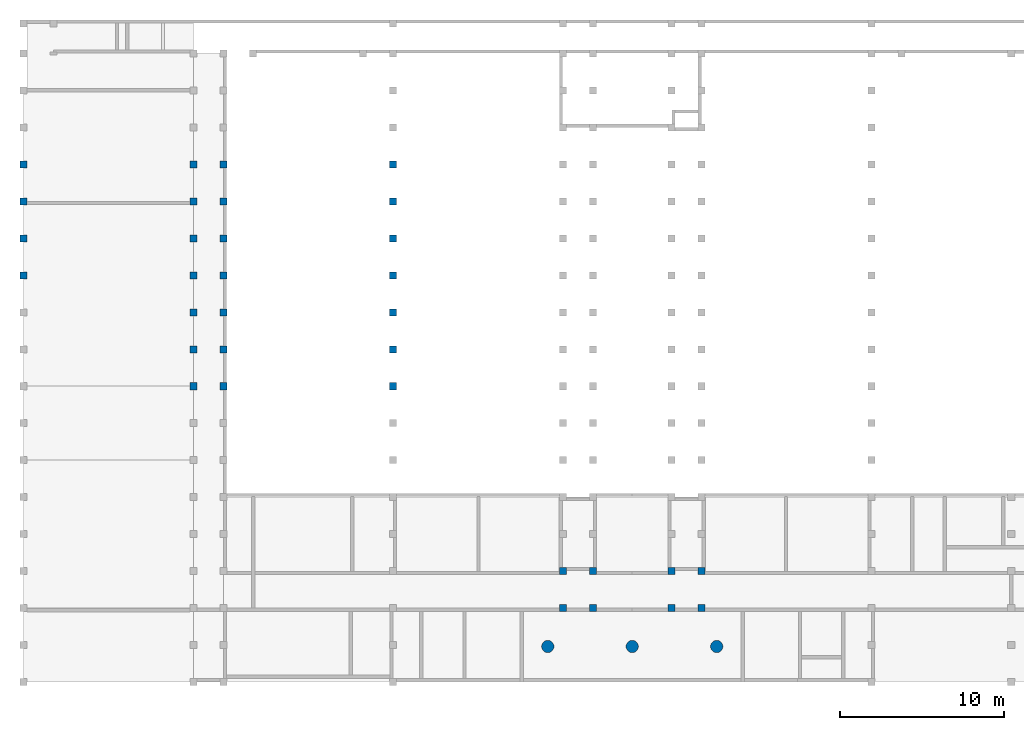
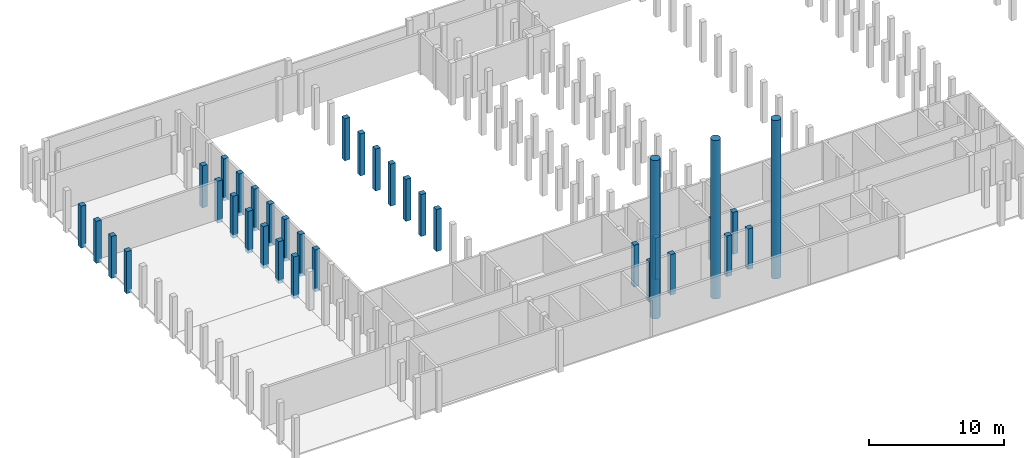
# One storey, part 2 of 9: 36 columns.
"""IFC2X3 building model written with IfcOpenShell, lengths in millimetres."""

from ifc_helpers import new_model, entity, si_unit, converted_unit, derived_unit, direction, frame, frame_2d, origin, origin_2d_with_axis, place, context, subcontext, project, spatial, rectangle, circle, extrude, source, transform, mapped, material, type_object, type_shapes, element, save


model = new_model("IFC2X3")

# Units and contexts
model_context = context("Model", 3, precision=0.01, world=origin(), true_north=direction((6.12303176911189e-17, 1.0)))
body_context = subcontext(model_context, "Body", "Model", "MODEL_VIEW")
ifc_project = project(units=[si_unit("LENGTHUNIT", "METRE", prefix="MILLI"), si_unit("AREAUNIT", "SQUARE_METRE"), si_unit("VOLUMEUNIT", "CUBIC_METRE"), converted_unit("PLANEANGLEUNIT", "DEGREE", entity("IfcRatioMeasure", 0.0174532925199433), si_unit("PLANEANGLEUNIT", "RADIAN"), dimensions=[0, 0, 0, 0, 0, 0, 0]), si_unit("MASSUNIT", "GRAM", prefix="KILO"), derived_unit("MASSDENSITYUNIT", [(si_unit("MASSUNIT", "GRAM", prefix="KILO"), 1), (si_unit("LENGTHUNIT", "METRE"), -3)]), derived_unit("MOMENTOFINERTIAUNIT", [(si_unit("LENGTHUNIT", "METRE"), 4)]), si_unit("TIMEUNIT", "SECOND"), si_unit("FREQUENCYUNIT", "HERTZ"), si_unit("THERMODYNAMICTEMPERATUREUNIT", "DEGREE_CELSIUS"), derived_unit("THERMALTRANSMITTANCEUNIT", [(si_unit("MASSUNIT", "GRAM", prefix="KILO"), 1), (si_unit("THERMODYNAMICTEMPERATUREUNIT", "KELVIN"), -1), (si_unit("TIMEUNIT", "SECOND"), -3)]), derived_unit("VOLUMETRICFLOWRATEUNIT", [(si_unit("LENGTHUNIT", "METRE"), 3), (si_unit("TIMEUNIT", "SECOND"), -1)]), si_unit("ELECTRICCURRENTUNIT", "AMPERE"), si_unit("ELECTRICVOLTAGEUNIT", "VOLT"), si_unit("POWERUNIT", "WATT"), si_unit("FORCEUNIT", "NEWTON", prefix="KILO"), si_unit("ILLUMINANCEUNIT", "LUX"), si_unit("LUMINOUSFLUXUNIT", "LUMEN"), si_unit("LUMINOUSINTENSITYUNIT", "CANDELA"), derived_unit("USERDEFINED", [(si_unit("MASSUNIT", "GRAM", prefix="KILO"), -1), (si_unit("LENGTHUNIT", "METRE"), -2), (si_unit("TIMEUNIT", "SECOND"), 3), (si_unit("LUMINOUSFLUXUNIT", "LUMEN"), 1)]), derived_unit("LINEARVELOCITYUNIT", [(si_unit("LENGTHUNIT", "METRE"), 1), (si_unit("TIMEUNIT", "SECOND"), -1)]), si_unit("PRESSUREUNIT", "PASCAL"), derived_unit("USERDEFINED", [(si_unit("LENGTHUNIT", "METRE"), -2), (si_unit("MASSUNIT", "GRAM", prefix="KILO"), 1), (si_unit("TIMEUNIT", "SECOND"), -2)]), derived_unit("LINEARFORCEUNIT", [(si_unit("MASSUNIT", "GRAM", prefix="KILO"), 1), (si_unit("LENGTHUNIT", "METRE"), 1), (si_unit("TIMEUNIT", "SECOND"), -2), (si_unit("LENGTHUNIT", "METRE"), -1)]), derived_unit("PLANARFORCEUNIT", [(si_unit("MASSUNIT", "GRAM", prefix="KILO"), 1), (si_unit("LENGTHUNIT", "METRE"), 1), (si_unit("TIMEUNIT", "SECOND"), -2), (si_unit("LENGTHUNIT", "METRE"), -2)])], contexts=[model_context])

# Site, building, storey
site_placement = place(None, frame((10627.5135316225, 21939.0796949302, 0.0)))
site = spatial("IfcSite", under=ifc_project, at=site_placement, Name="Default", CompositionType="ELEMENT")
building_placement = place(site_placement, origin())
building = spatial("IfcBuilding", under=site, at=building_placement, CompositionType="ELEMENT")
storey_placement = place(building_placement, frame((0.0, 0.0, -3500.0)))
storey = spatial("IfcBuildingStorey", under=building, at=storey_placement, Name="R-1", CompositionType="ELEMENT", Elevation=-3500.0)

# Columns
ifc_material = material(Name="Concrete, Precast Smooth, Light Grey")
column_type_1 = type_object("IfcColumnType", Name="M_Precast-Square Column:430x430", PredefinedType="COLUMN", material=ifc_material)
shared_shape_1 = source(origin(), body_context, "Body", "SweptSolid", [
    extrude(rectangle(XDim=430.0, YDim=430.0, at=origin_2d_with_axis()), frame((-247.513531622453, 9700.92030506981, -3800.0), z_axis=(0.0, 0.0, 1.0), x_axis=(0.0, -1.0, 0.0)), (0.0, 0.0, 1.0), 3800.0),
])
type_shapes(column_type_1, [shared_shape_1])
column_1_placement = place(storey_placement, frame((0.0, 0.0, 3500.0)))
element("IfcColumn", 1, at=column_1_placement, inside=storey, type_object=column_type_1, material=ifc_material, Name="M_Precast-Square Column:430x430", ObjectType="M_Precast-Square Column:430x430", context=body_context, shape_type="MappedRepresentation", body=[
    mapped(shared_shape_1, transform((0.0, 0.0, 0.0), scale=1.0)),
])
column_type_2 = type_object("IfcColumnType", Name="M_Precast-Square Column:430x430", PredefinedType="COLUMN", material=ifc_material)
shared_shape_2 = source(origin(), body_context, "Body", "SweptSolid", [
    extrude(rectangle(XDim=430.0, YDim=429.999999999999, at=frame_2d((0.0, 2.8421709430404e-13), x_axis=(1.0, 0.0))), frame((1582.48646837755, 9700.9203050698, -3800.0), z_axis=(0.0, 0.0, 1.0), x_axis=(0.0, -1.0, 0.0)), (0.0, 0.0, 1.0), 3800.0),
])
type_shapes(column_type_2, [shared_shape_2])
column_2_placement = place(storey_placement, frame((0.0, 0.0, 3500.0)))
element("IfcColumn", 2, at=column_2_placement, inside=storey, type_object=column_type_2, material=ifc_material, Name="M_Precast-Square Column:430x430", ObjectType="M_Precast-Square Column:430x430", context=body_context, shape_type="MappedRepresentation", body=[
    mapped(shared_shape_2, transform((0.0, 0.0, 0.0), scale=1.0)),
])
column_type_3 = type_object("IfcColumnType", Name="M_Precast-Square Column:430x430", PredefinedType="COLUMN", material=ifc_material)
shared_shape_3 = source(origin(), body_context, "Body", "SweptSolid", [
    extrude(rectangle(XDim=430.0, YDim=430.000000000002, at=frame_2d((-5.40012479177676e-13, -1.08002495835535e-12), x_axis=(1.0, 0.0))), frame((-10627.5135316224, 9700.92030506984, -3800.0), z_axis=(0.0, 0.0, 1.0), x_axis=(0.0, -1.0, 0.0)), (0.0, 0.0, 1.0), 3800.0),
])
type_shapes(column_type_3, [shared_shape_3])
column_3_placement = place(storey_placement, frame((0.0, 0.0, 3500.0)))
element("IfcColumn", 3, at=column_3_placement, inside=storey, type_object=column_type_3, material=ifc_material, Name="M_Precast-Square Column:430x430", ObjectType="M_Precast-Square Column:430x430", context=body_context, shape_type="MappedRepresentation", body=[
    mapped(shared_shape_3, transform((0.0, 0.0, 0.0), scale=1.0)),
])
column_type_4 = type_object("IfcColumnType", Name="M_Precast-Square Column:430x430", PredefinedType="COLUMN", material=ifc_material)
shared_shape_4 = source(origin(), body_context, "Body", "SweptSolid", [
    extrude(rectangle(XDim=430.0, YDim=430.000000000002, at=frame_2d((-5.40012479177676e-13, -1.08002495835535e-12), x_axis=(1.0, 0.0))), frame((11962.4864683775, 9700.92030506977, -3800.0), z_axis=(0.0, 0.0, 1.0), x_axis=(0.0, -1.0, 0.0)), (0.0, 0.0, 1.0), 3800.0),
])
type_shapes(column_type_4, [shared_shape_4])
column_4_placement = place(storey_placement, frame((0.0, 0.0, 3500.0)))
element("IfcColumn", 4, at=column_4_placement, inside=storey, type_object=column_type_4, material=ifc_material, Name="M_Precast-Square Column:430x430", ObjectType="M_Precast-Square Column:430x430", context=body_context, shape_type="MappedRepresentation", body=[
    mapped(shared_shape_4, transform((0.0, 0.0, 0.0), scale=1.0)),
])
column_type_5 = type_object("IfcColumnType", Name="M_Precast-Square Column:430x430", PredefinedType="COLUMN", material=ifc_material)
shared_shape_5 = source(origin(), body_context, "Body", "SweptSolid", [
    extrude(rectangle(XDim=430.0, YDim=430.0, at=origin_2d_with_axis()), frame((-247.513531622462, 7440.92030506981, -3800.0), z_axis=(0.0, 0.0, 1.0), x_axis=(0.0, -1.0, 0.0)), (0.0, 0.0, 1.0), 3800.0),
])
type_shapes(column_type_5, [shared_shape_5])
column_5_placement = place(storey_placement, frame((0.0, 0.0, 3500.0)))
element("IfcColumn", 5, at=column_5_placement, inside=storey, type_object=column_type_5, material=ifc_material, Name="M_Precast-Square Column:430x430", ObjectType="M_Precast-Square Column:430x430", context=body_context, shape_type="MappedRepresentation", body=[
    mapped(shared_shape_5, transform((0.0, 0.0, 0.0), scale=1.0)),
])
column_type_6 = type_object("IfcColumnType", Name="M_Precast-Square Column:430x430", PredefinedType="COLUMN", material=ifc_material)
shared_shape_6 = source(origin(), body_context, "Body", "SweptSolid", [
    extrude(rectangle(XDim=430.0, YDim=429.999999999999, at=frame_2d((0.0, 2.8421709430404e-13), x_axis=(1.0, 0.0))), frame((1582.48646837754, 7440.9203050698, -3800.0), z_axis=(0.0, 0.0, 1.0), x_axis=(0.0, -1.0, 0.0)), (0.0, 0.0, 1.0), 3800.0),
])
type_shapes(column_type_6, [shared_shape_6])
column_6_placement = place(storey_placement, frame((0.0, 0.0, 3500.0)))
element("IfcColumn", 6, at=column_6_placement, inside=storey, type_object=column_type_6, material=ifc_material, Name="M_Precast-Square Column:430x430", ObjectType="M_Precast-Square Column:430x430", context=body_context, shape_type="MappedRepresentation", body=[
    mapped(shared_shape_6, transform((0.0, 0.0, 0.0), scale=1.0)),
])
column_type_7 = type_object("IfcColumnType", Name="M_Precast-Square Column:430x430", PredefinedType="COLUMN", material=ifc_material)
shared_shape_7 = source(origin(), body_context, "Body", "SweptSolid", [
    extrude(rectangle(XDim=430.0, YDim=430.000000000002, at=frame_2d((0.0, -1.08002495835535e-12), x_axis=(1.0, 0.0))), frame((-10627.5135316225, 7440.92030506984, -3800.0), z_axis=(0.0, 0.0, 1.0), x_axis=(0.0, -1.0, 0.0)), (0.0, 0.0, 1.0), 3800.0),
])
type_shapes(column_type_7, [shared_shape_7])
column_7_placement = place(storey_placement, frame((0.0, 0.0, 3500.0)))
element("IfcColumn", 7, at=column_7_placement, inside=storey, type_object=column_type_7, material=ifc_material, Name="M_Precast-Square Column:430x430", ObjectType="M_Precast-Square Column:430x430", context=body_context, shape_type="MappedRepresentation", body=[
    mapped(shared_shape_7, transform((0.0, 0.0, 0.0), scale=1.0)),
])
column_type_8 = type_object("IfcColumnType", Name="M_Precast-Square Column:430x430", PredefinedType="COLUMN", material=ifc_material)
shared_shape_8 = source(origin(), body_context, "Body", "SweptSolid", [
    extrude(rectangle(XDim=430.0, YDim=430.000000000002, at=frame_2d((0.0, -1.08002495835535e-12), x_axis=(1.0, 0.0))), frame((11962.4864683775, 7440.92030506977, -3800.0), z_axis=(0.0, 0.0, 1.0), x_axis=(0.0, -1.0, 0.0)), (0.0, 0.0, 1.0), 3800.0),
])
type_shapes(column_type_8, [shared_shape_8])
column_8_placement = place(storey_placement, frame((0.0, 0.0, 3500.0)))
element("IfcColumn", 8, at=column_8_placement, inside=storey, type_object=column_type_8, material=ifc_material, Name="M_Precast-Square Column:430x430", ObjectType="M_Precast-Square Column:430x430", context=body_context, shape_type="MappedRepresentation", body=[
    mapped(shared_shape_8, transform((0.0, 0.0, 0.0), scale=1.0)),
])
column_type_9 = type_object("IfcColumnType", Name="M_Precast-Square Column:430x430", PredefinedType="COLUMN", material=ifc_material)
shared_shape_9 = source(origin(), body_context, "Body", "SweptSolid", [
    extrude(rectangle(XDim=430.0, YDim=430.0, at=origin_2d_with_axis()), frame((-247.513531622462, 5180.92030506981, -3800.0), z_axis=(0.0, 0.0, 1.0), x_axis=(0.0, -1.0, 0.0)), (0.0, 0.0, 1.0), 3800.0),
])
type_shapes(column_type_9, [shared_shape_9])
column_9_placement = place(storey_placement, frame((0.0, 0.0, 3500.0)))
element("IfcColumn", 9, at=column_9_placement, inside=storey, type_object=column_type_9, material=ifc_material, Name="M_Precast-Square Column:430x430", ObjectType="M_Precast-Square Column:430x430", context=body_context, shape_type="MappedRepresentation", body=[
    mapped(shared_shape_9, transform((0.0, 0.0, 0.0), scale=1.0)),
])
column_type_10 = type_object("IfcColumnType", Name="M_Precast-Square Column:430x430", PredefinedType="COLUMN", material=ifc_material)
shared_shape_10 = source(origin(), body_context, "Body", "SweptSolid", [
    extrude(rectangle(XDim=430.0, YDim=429.999999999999, at=frame_2d((0.0, 2.8421709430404e-13), x_axis=(1.0, 0.0))), frame((1582.48646837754, 5180.9203050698, -3800.0), z_axis=(0.0, 0.0, 1.0), x_axis=(0.0, -1.0, 0.0)), (0.0, 0.0, 1.0), 3800.0),
])
type_shapes(column_type_10, [shared_shape_10])
column_10_placement = place(storey_placement, frame((0.0, 0.0, 3500.0)))
element("IfcColumn", 10, at=column_10_placement, inside=storey, type_object=column_type_10, material=ifc_material, Name="M_Precast-Square Column:430x430", ObjectType="M_Precast-Square Column:430x430", context=body_context, shape_type="MappedRepresentation", body=[
    mapped(shared_shape_10, transform((0.0, 0.0, 0.0), scale=1.0)),
])
column_type_11 = type_object("IfcColumnType", Name="M_Precast-Square Column:430x430", PredefinedType="COLUMN", material=ifc_material)
shared_shape_11 = source(origin(), body_context, "Body", "SweptSolid", [
    extrude(rectangle(XDim=430.0, YDim=430.000000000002, at=frame_2d((0.0, -1.08002495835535e-12), x_axis=(1.0, 0.0))), frame((-10627.5135316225, 5180.92030506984, -3800.0), z_axis=(0.0, 0.0, 1.0), x_axis=(0.0, -1.0, 0.0)), (0.0, 0.0, 1.0), 3800.0),
])
type_shapes(column_type_11, [shared_shape_11])
column_11_placement = place(storey_placement, frame((0.0, 0.0, 3500.0)))
element("IfcColumn", 11, at=column_11_placement, inside=storey, type_object=column_type_11, material=ifc_material, Name="M_Precast-Square Column:430x430", ObjectType="M_Precast-Square Column:430x430", context=body_context, shape_type="MappedRepresentation", body=[
    mapped(shared_shape_11, transform((0.0, 0.0, 0.0), scale=1.0)),
])
column_type_12 = type_object("IfcColumnType", Name="M_Precast-Square Column:430x430", PredefinedType="COLUMN", material=ifc_material)
shared_shape_12 = source(origin(), body_context, "Body", "SweptSolid", [
    extrude(rectangle(XDim=430.0, YDim=430.000000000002, at=frame_2d((0.0, -1.08002495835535e-12), x_axis=(1.0, 0.0))), frame((11962.4864683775, 5180.92030506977, -3800.0), z_axis=(0.0, 0.0, 1.0), x_axis=(0.0, -1.0, 0.0)), (0.0, 0.0, 1.0), 3800.0),
])
type_shapes(column_type_12, [shared_shape_12])
column_12_placement = place(storey_placement, frame((0.0, 0.0, 3500.0)))
element("IfcColumn", 12, at=column_12_placement, inside=storey, type_object=column_type_12, material=ifc_material, Name="M_Precast-Square Column:430x430", ObjectType="M_Precast-Square Column:430x430", context=body_context, shape_type="MappedRepresentation", body=[
    mapped(shared_shape_12, transform((0.0, 0.0, 0.0), scale=1.0)),
])
column_type_13 = type_object("IfcColumnType", Name="M_Precast-Square Column:430x430", PredefinedType="COLUMN", material=ifc_material)
shared_shape_13 = source(origin(), body_context, "Body", "SweptSolid", [
    extrude(rectangle(XDim=430.0, YDim=430.0, at=origin_2d_with_axis()), frame((-247.51353162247, 2920.92030506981, -3800.0), z_axis=(0.0, 0.0, 1.0), x_axis=(0.0, -1.0, 0.0)), (0.0, 0.0, 1.0), 3800.0),
])
type_shapes(column_type_13, [shared_shape_13])
column_13_placement = place(storey_placement, frame((0.0, 0.0, 3500.0)))
element("IfcColumn", 13, at=column_13_placement, inside=storey, type_object=column_type_13, material=ifc_material, Name="M_Precast-Square Column:430x430", ObjectType="M_Precast-Square Column:430x430", context=body_context, shape_type="MappedRepresentation", body=[
    mapped(shared_shape_13, transform((0.0, 0.0, 0.0), scale=1.0)),
])
column_type_14 = type_object("IfcColumnType", Name="M_Precast-Square Column:430x430", PredefinedType="COLUMN", material=ifc_material)
shared_shape_14 = source(origin(), body_context, "Body", "SweptSolid", [
    extrude(rectangle(XDim=430.0, YDim=429.999999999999, at=frame_2d((0.0, 2.8421709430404e-13), x_axis=(1.0, 0.0))), frame((1582.48646837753, 2920.9203050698, -3800.0), z_axis=(0.0, 0.0, 1.0), x_axis=(0.0, -1.0, 0.0)), (0.0, 0.0, 1.0), 3800.0),
])
type_shapes(column_type_14, [shared_shape_14])
column_14_placement = place(storey_placement, frame((0.0, 0.0, 3500.0)))
element("IfcColumn", 14, at=column_14_placement, inside=storey, type_object=column_type_14, material=ifc_material, Name="M_Precast-Square Column:430x430", ObjectType="M_Precast-Square Column:430x430", context=body_context, shape_type="MappedRepresentation", body=[
    mapped(shared_shape_14, transform((0.0, 0.0, 0.0), scale=1.0)),
])
column_type_15 = type_object("IfcColumnType", Name="M_Precast-Square Column:430x430", PredefinedType="COLUMN", material=ifc_material)
shared_shape_15 = source(origin(), body_context, "Body", "SweptSolid", [
    extrude(rectangle(XDim=430.0, YDim=430.000000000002, at=frame_2d((0.0, -1.08002495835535e-12), x_axis=(1.0, 0.0))), frame((-10627.5135316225, 2920.92030506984, -3800.0), z_axis=(0.0, 0.0, 1.0), x_axis=(0.0, -1.0, 0.0)), (0.0, 0.0, 1.0), 3800.0),
])
type_shapes(column_type_15, [shared_shape_15])
column_15_placement = place(storey_placement, frame((0.0, 0.0, 3500.0)))
element("IfcColumn", 15, at=column_15_placement, inside=storey, type_object=column_type_15, material=ifc_material, Name="M_Precast-Square Column:430x430", ObjectType="M_Precast-Square Column:430x430", context=body_context, shape_type="MappedRepresentation", body=[
    mapped(shared_shape_15, transform((0.0, 0.0, 0.0), scale=1.0)),
])
column_type_16 = type_object("IfcColumnType", Name="M_Precast-Square Column:430x430", PredefinedType="COLUMN", material=ifc_material)
shared_shape_16 = source(origin(), body_context, "Body", "SweptSolid", [
    extrude(rectangle(XDim=430.0, YDim=430.000000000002, at=frame_2d((0.0, -1.08002495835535e-12), x_axis=(1.0, 0.0))), frame((11962.4864683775, 2920.92030506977, -3800.0), z_axis=(0.0, 0.0, 1.0), x_axis=(0.0, -1.0, 0.0)), (0.0, 0.0, 1.0), 3800.0),
])
type_shapes(column_type_16, [shared_shape_16])
column_16_placement = place(storey_placement, frame((0.0, 0.0, 3500.0)))
element("IfcColumn", 16, at=column_16_placement, inside=storey, type_object=column_type_16, material=ifc_material, Name="M_Precast-Square Column:430x430", ObjectType="M_Precast-Square Column:430x430", context=body_context, shape_type="MappedRepresentation", body=[
    mapped(shared_shape_16, transform((0.0, 0.0, 0.0), scale=1.0)),
])
column_type_17 = type_object("IfcColumnType", Name="M_Precast-Square Column:430x430", PredefinedType="COLUMN", material=ifc_material)
shared_shape_17 = source(origin(), body_context, "Body", "SweptSolid", [
    extrude(rectangle(XDim=430.0, YDim=430.0, at=frame_2d((-5.6843418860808e-14, 0.0), x_axis=(1.0, 0.0))), frame((-247.51353162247, 660.920305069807, -3800.0), z_axis=(0.0, 0.0, 1.0), x_axis=(0.0, -1.0, 0.0)), (0.0, 0.0, 1.0), 3800.0),
])
type_shapes(column_type_17, [shared_shape_17])
column_17_placement = place(storey_placement, frame((0.0, 0.0, 3500.0)))
element("IfcColumn", 17, at=column_17_placement, inside=storey, type_object=column_type_17, material=ifc_material, Name="M_Precast-Square Column:430x430", ObjectType="M_Precast-Square Column:430x430", context=body_context, shape_type="MappedRepresentation", body=[
    mapped(shared_shape_17, transform((0.0, 0.0, 0.0), scale=1.0)),
])
column_type_18 = type_object("IfcColumnType", Name="M_Precast-Square Column:430x430", PredefinedType="COLUMN", material=ifc_material)
shared_shape_18 = source(origin(), body_context, "Body", "SweptSolid", [
    extrude(rectangle(XDim=430.0, YDim=429.999999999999, at=frame_2d((-7.105427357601e-14, 2.8421709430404e-13), x_axis=(1.0, 0.0))), frame((1582.48646837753, 660.920305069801, -3800.0), z_axis=(0.0, 0.0, 1.0), x_axis=(0.0, -1.0, 0.0)), (0.0, 0.0, 1.0), 3800.0),
])
type_shapes(column_type_18, [shared_shape_18])
column_18_placement = place(storey_placement, frame((0.0, 0.0, 3500.0)))
element("IfcColumn", 18, at=column_18_placement, inside=storey, type_object=column_type_18, material=ifc_material, Name="M_Precast-Square Column:430x430", ObjectType="M_Precast-Square Column:430x430", context=body_context, shape_type="MappedRepresentation", body=[
    mapped(shared_shape_18, transform((0.0, 0.0, 0.0), scale=1.0)),
])
column_type_19 = type_object("IfcColumnType", Name="M_Precast-Square Column:430x430", PredefinedType="COLUMN", material=ifc_material)
shared_shape_19 = source(origin(), body_context, "Body", "SweptSolid", [
    extrude(rectangle(XDim=430.0, YDim=430.000000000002, at=frame_2d((-7.105427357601e-14, -1.08002495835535e-12), x_axis=(1.0, 0.0))), frame((11962.4864683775, 660.920305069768, -3800.0), z_axis=(0.0, 0.0, 1.0), x_axis=(0.0, -1.0, 0.0)), (0.0, 0.0, 1.0), 3800.0),
])
type_shapes(column_type_19, [shared_shape_19])
column_19_placement = place(storey_placement, frame((0.0, 0.0, 3500.0)))
element("IfcColumn", 19, at=column_19_placement, inside=storey, type_object=column_type_19, material=ifc_material, Name="M_Precast-Square Column:430x430", ObjectType="M_Precast-Square Column:430x430", context=body_context, shape_type="MappedRepresentation", body=[
    mapped(shared_shape_19, transform((0.0, 0.0, 0.0), scale=1.0)),
])
column_type_20 = type_object("IfcColumnType", Name="M_Precast-Square Column:430x430", PredefinedType="COLUMN", material=ifc_material)
shared_shape_20 = source(origin(), body_context, "Body", "SweptSolid", [
    extrude(rectangle(XDim=430.0, YDim=430.0, at=frame_2d((-2.70006239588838e-13, 0.0), x_axis=(1.0, 0.0))), frame((-247.513531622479, -1599.07969493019, -3800.0), z_axis=(0.0, 0.0, 1.0), x_axis=(0.0, -1.0, 0.0)), (0.0, 0.0, 1.0), 3800.0),
])
type_shapes(column_type_20, [shared_shape_20])
column_20_placement = place(storey_placement, frame((0.0, 0.0, 3500.0)))
element("IfcColumn", 20, at=column_20_placement, inside=storey, type_object=column_type_20, material=ifc_material, Name="M_Precast-Square Column:430x430", ObjectType="M_Precast-Square Column:430x430", context=body_context, shape_type="MappedRepresentation", body=[
    mapped(shared_shape_20, transform((0.0, 0.0, 0.0), scale=1.0)),
])
column_type_21 = type_object("IfcColumnType", Name="M_Precast-Square Column:430x430", PredefinedType="COLUMN", material=ifc_material)
shared_shape_21 = source(origin(), body_context, "Body", "SweptSolid", [
    extrude(rectangle(XDim=430.0, YDim=429.999999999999, at=frame_2d((-1.27897692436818e-13, 2.8421709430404e-13), x_axis=(1.0, 0.0))), frame((1582.48646837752, -1599.0796949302, -3800.0), z_axis=(0.0, 0.0, 1.0), x_axis=(0.0, -1.0, 0.0)), (0.0, 0.0, 1.0), 3800.0),
])
type_shapes(column_type_21, [shared_shape_21])
column_21_placement = place(storey_placement, frame((0.0, 0.0, 3500.0)))
element("IfcColumn", 21, at=column_21_placement, inside=storey, type_object=column_type_21, material=ifc_material, Name="M_Precast-Square Column:430x430", ObjectType="M_Precast-Square Column:430x430", context=body_context, shape_type="MappedRepresentation", body=[
    mapped(shared_shape_21, transform((0.0, 0.0, 0.0), scale=1.0)),
])
column_type_22 = type_object("IfcColumnType", Name="M_Precast-Square Column:430x430", PredefinedType="COLUMN", material=ifc_material)
shared_shape_22 = source(origin(), body_context, "Body", "SweptSolid", [
    extrude(rectangle(XDim=430.0, YDim=430.000000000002, at=frame_2d((0.0, -1.08002495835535e-12), x_axis=(1.0, 0.0))), frame((11962.4864683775, -1599.07969493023, -3800.0), z_axis=(0.0, 0.0, 1.0), x_axis=(0.0, -1.0, 0.0)), (0.0, 0.0, 1.0), 3800.0),
])
type_shapes(column_type_22, [shared_shape_22])
column_22_placement = place(storey_placement, frame((0.0, 0.0, 3500.0)))
element("IfcColumn", 22, at=column_22_placement, inside=storey, type_object=column_type_22, material=ifc_material, Name="M_Precast-Square Column:430x430", ObjectType="M_Precast-Square Column:430x430", context=body_context, shape_type="MappedRepresentation", body=[
    mapped(shared_shape_22, transform((0.0, 0.0, 0.0), scale=1.0)),
])
column_type_23 = type_object("IfcColumnType", Name="M_Precast-Square Column:430x430", PredefinedType="COLUMN", material=ifc_material)
shared_shape_23 = source(origin(), body_context, "Body", "SweptSolid", [
    extrude(rectangle(XDim=430.0, YDim=430.0, at=frame_2d((-5.40012479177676e-13, 0.0), x_axis=(1.0, 0.0))), frame((-247.513531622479, -3859.07969493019, -3800.0), z_axis=(0.0, 0.0, 1.0), x_axis=(0.0, -1.0, 0.0)), (0.0, 0.0, 1.0), 3800.0),
])
type_shapes(column_type_23, [shared_shape_23])
column_23_placement = place(storey_placement, frame((0.0, 0.0, 3500.0)))
element("IfcColumn", 23, at=column_23_placement, inside=storey, type_object=column_type_23, material=ifc_material, Name="M_Precast-Square Column:430x430", ObjectType="M_Precast-Square Column:430x430", context=body_context, shape_type="MappedRepresentation", body=[
    mapped(shared_shape_23, transform((0.0, 0.0, 0.0), scale=1.0)),
])
column_type_24 = type_object("IfcColumnType", Name="M_Precast-Square Column:430x430", PredefinedType="COLUMN", material=ifc_material)
shared_shape_24 = source(origin(), body_context, "Body", "SweptSolid", [
    extrude(rectangle(XDim=430.0, YDim=429.999999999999, at=frame_2d((0.0, 2.8421709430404e-13), x_axis=(1.0, 0.0))), frame((1582.48646837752, -3859.0796949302, -3800.0), z_axis=(0.0, 0.0, 1.0), x_axis=(0.0, -1.0, 0.0)), (0.0, 0.0, 1.0), 3800.0),
])
type_shapes(column_type_24, [shared_shape_24])
column_24_placement = place(storey_placement, frame((0.0, 0.0, 3500.0)))
element("IfcColumn", 24, at=column_24_placement, inside=storey, type_object=column_type_24, material=ifc_material, Name="M_Precast-Square Column:430x430", ObjectType="M_Precast-Square Column:430x430", context=body_context, shape_type="MappedRepresentation", body=[
    mapped(shared_shape_24, transform((0.0, 0.0, 0.0), scale=1.0)),
])
column_type_25 = type_object("IfcColumnType", Name="M_Precast-Square Column:430x430", PredefinedType="COLUMN", material=ifc_material)
shared_shape_25 = source(origin(), body_context, "Body", "SweptSolid", [
    extrude(rectangle(XDim=430.0, YDim=430.000000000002, at=frame_2d((0.0, -1.08002495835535e-12), x_axis=(1.0, 0.0))), frame((11962.4864683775, -3859.07969493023, -3800.0), z_axis=(0.0, 0.0, 1.0), x_axis=(0.0, -1.0, 0.0)), (0.0, 0.0, 1.0), 3800.0),
])
type_shapes(column_type_25, [shared_shape_25])
column_25_placement = place(storey_placement, frame((0.0, 0.0, 3500.0)))
element("IfcColumn", 25, at=column_25_placement, inside=storey, type_object=column_type_25, material=ifc_material, Name="M_Precast-Square Column:430x430", ObjectType="M_Precast-Square Column:430x430", context=body_context, shape_type="MappedRepresentation", body=[
    mapped(shared_shape_25, transform((0.0, 0.0, 0.0), scale=1.0)),
])
column_type_26 = type_object("IfcColumnType", Name="M_Precast-Square Column:430x430", PredefinedType="COLUMN", material=ifc_material)
shared_shape_26 = source(origin(), body_context, "Body", "SweptSolid", [
    extrude(rectangle(XDim=430.0, YDim=429.999999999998, at=frame_2d((2.1600499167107e-12, 0.0), x_axis=(1.0, 0.0))), frame((22342.4864683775, -15159.0796949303, -3800.0), z_axis=(0.0, 0.0, 1.0), x_axis=(0.0, -1.0, 0.0)), (0.0, 0.0, 1.0), 3800.0),
])
type_shapes(column_type_26, [shared_shape_26])
column_26_placement = place(storey_placement, frame((0.0, 0.0, 3500.0)))
element("IfcColumn", 26, at=column_26_placement, inside=storey, type_object=column_type_26, material=ifc_material, Name="M_Precast-Square Column:430x430", ObjectType="M_Precast-Square Column:430x430", context=body_context, shape_type="MappedRepresentation", body=[
    mapped(shared_shape_26, transform((0.0, 0.0, 0.0), scale=1.0)),
])
column_type_27 = type_object("IfcColumnType", Name="M_Precast-Square Column:430x430", PredefinedType="COLUMN", material=ifc_material)
shared_shape_27 = source(origin(), body_context, "Body", "SweptSolid", [
    extrude(rectangle(XDim=430.0, YDim=429.999999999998, at=origin_2d_with_axis()), frame((24172.4864683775, -15159.0796949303, -3800.0), z_axis=(0.0, 0.0, 1.0), x_axis=(0.0, -1.0, 0.0)), (0.0, 0.0, 1.0), 3800.0),
])
type_shapes(column_type_27, [shared_shape_27])
column_27_placement = place(storey_placement, frame((0.0, 0.0, 3500.0)))
element("IfcColumn", 27, at=column_27_placement, inside=storey, type_object=column_type_27, material=ifc_material, Name="M_Precast-Square Column:430x430", ObjectType="M_Precast-Square Column:430x430", context=body_context, shape_type="MappedRepresentation", body=[
    mapped(shared_shape_27, transform((0.0, 0.0, 0.0), scale=1.0)),
])
column_type_28 = type_object("IfcColumnType", Name="M_Precast-Square Column:430x430", PredefinedType="COLUMN", material=ifc_material)
shared_shape_28 = source(origin(), body_context, "Body", "SweptSolid", [
    extrude(rectangle(XDim=430.0, YDim=429.999999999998, at=frame_2d((2.1600499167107e-12, 0.0), x_axis=(1.0, 0.0))), frame((22342.4864683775, -17419.0796949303, -3800.0), z_axis=(0.0, 0.0, 1.0), x_axis=(0.0, -1.0, 0.0)), (0.0, 0.0, 1.0), 3670.0),
])
type_shapes(column_type_28, [shared_shape_28])
column_28_placement = place(storey_placement, frame((0.0, 0.0, 3500.0)))
element("IfcColumn", 28, at=column_28_placement, inside=storey, type_object=column_type_28, material=ifc_material, Name="M_Precast-Square Column:430x430", ObjectType="M_Precast-Square Column:430x430", context=body_context, shape_type="MappedRepresentation", body=[
    mapped(shared_shape_28, transform((0.0, 0.0, 0.0), scale=1.0)),
])
column_type_29 = type_object("IfcColumnType", Name="M_Precast-Square Column:430x430", PredefinedType="COLUMN", material=ifc_material)
shared_shape_29 = source(origin(), body_context, "Body", "SweptSolid", [
    extrude(rectangle(XDim=430.0, YDim=429.999999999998, at=origin_2d_with_axis()), frame((24172.4864683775, -17419.0796949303, -3800.0), z_axis=(0.0, 0.0, 1.0), x_axis=(0.0, -1.0, 0.0)), (0.0, 0.0, 1.0), 3670.0),
])
type_shapes(column_type_29, [shared_shape_29])
column_29_placement = place(storey_placement, frame((0.0, 0.0, 3500.0)))
element("IfcColumn", 29, at=column_29_placement, inside=storey, type_object=column_type_29, material=ifc_material, Name="M_Precast-Square Column:430x430", ObjectType="M_Precast-Square Column:430x430", context=body_context, shape_type="MappedRepresentation", body=[
    mapped(shared_shape_29, transform((0.0, 0.0, 0.0), scale=1.0)),
])
column_type_30 = type_object("IfcColumnType", Name="M_Precast-Square Column:430x430", PredefinedType="COLUMN", material=ifc_material)
shared_shape_30 = source(origin(), body_context, "Body", "SweptSolid", [
    extrude(rectangle(XDim=430.0, YDim=429.999999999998, at=frame_2d((1.08002495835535e-12, -4.33431068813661e-12), x_axis=(1.0, 0.0))), frame((30812.4864683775, -15159.0796949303, -3800.0), z_axis=(0.0, 0.0, 1.0), x_axis=(0.0, -1.0, 0.0)), (0.0, 0.0, 1.0), 3800.0),
])
type_shapes(column_type_30, [shared_shape_30])
column_30_placement = place(storey_placement, frame((0.0, 0.0, 3500.0)))
element("IfcColumn", 30, at=column_30_placement, inside=storey, type_object=column_type_30, material=ifc_material, Name="M_Precast-Square Column:430x430", ObjectType="M_Precast-Square Column:430x430", context=body_context, shape_type="MappedRepresentation", body=[
    mapped(shared_shape_30, transform((0.0, 0.0, 0.0), scale=1.0)),
])
column_type_31 = type_object("IfcColumnType", Name="M_Precast-Square Column:430x430", PredefinedType="COLUMN", material=ifc_material)
shared_shape_31 = source(origin(), body_context, "Body", "SweptSolid", [
    extrude(rectangle(XDim=430.0, YDim=429.999999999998, at=frame_2d((-1.08002495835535e-12, -4.33431068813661e-12), x_axis=(1.0, 0.0))), frame((28982.4864683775, -15159.0796949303, -3800.0), z_axis=(0.0, 0.0, 1.0), x_axis=(0.0, -1.0, 0.0)), (0.0, 0.0, 1.0), 3800.0),
])
type_shapes(column_type_31, [shared_shape_31])
column_31_placement = place(storey_placement, frame((0.0, 0.0, 3500.0)))
element("IfcColumn", 31, at=column_31_placement, inside=storey, type_object=column_type_31, material=ifc_material, Name="M_Precast-Square Column:430x430", ObjectType="M_Precast-Square Column:430x430", context=body_context, shape_type="MappedRepresentation", body=[
    mapped(shared_shape_31, transform((0.0, 0.0, 0.0), scale=1.0)),
])
column_type_32 = type_object("IfcColumnType", Name="M_Precast-Square Column:430x430", PredefinedType="COLUMN", material=ifc_material)
shared_shape_32 = source(origin(), body_context, "Body", "SweptSolid", [
    extrude(rectangle(XDim=430.0, YDim=429.999999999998, at=frame_2d((-1.08002495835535e-12, 0.0), x_axis=(1.0, 0.0))), frame((30812.4864683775, -17419.0796949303, -3800.0), z_axis=(0.0, 0.0, 1.0), x_axis=(0.0, -1.0, 0.0)), (0.0, 0.0, 1.0), 3670.0),
])
type_shapes(column_type_32, [shared_shape_32])
column_32_placement = place(storey_placement, frame((0.0, 0.0, 3500.0)))
element("IfcColumn", 32, at=column_32_placement, inside=storey, type_object=column_type_32, material=ifc_material, Name="M_Precast-Square Column:430x430", ObjectType="M_Precast-Square Column:430x430", context=body_context, shape_type="MappedRepresentation", body=[
    mapped(shared_shape_32, transform((0.0, 0.0, 0.0), scale=1.0)),
])
column_type_33 = type_object("IfcColumnType", Name="M_Precast-Square Column:430x430", PredefinedType="COLUMN", material=ifc_material)
shared_shape_33 = source(origin(), body_context, "Body", "SweptSolid", [
    extrude(rectangle(XDim=430.0, YDim=429.999999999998, at=frame_2d((-1.08002495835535e-12, 0.0), x_axis=(1.0, 0.0))), frame((28982.4864683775, -17419.0796949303, -3800.0), z_axis=(0.0, 0.0, 1.0), x_axis=(0.0, -1.0, 0.0)), (0.0, 0.0, 1.0), 3670.0),
])
type_shapes(column_type_33, [shared_shape_33])
column_33_placement = place(storey_placement, frame((0.0, 0.0, 3500.0)))
element("IfcColumn", 33, at=column_33_placement, inside=storey, type_object=column_type_33, material=ifc_material, Name="M_Precast-Square Column:430x430", ObjectType="M_Precast-Square Column:430x430", context=body_context, shape_type="MappedRepresentation", body=[
    mapped(shared_shape_33, transform((0.0, 0.0, 0.0), scale=1.0)),
])
column_type_34 = type_object("IfcColumnType", Name="M_Concrete-Round-Column:750mm", PredefinedType="COLUMN", material=ifc_material)
shared_shape_34 = source(origin(), body_context, "Body", "SweptSolid", [
    extrude(circle(Radius=374.999999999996, at=frame_2d((-6.76791955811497e-14, -6.51099239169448e-13), x_axis=(1.0, 0.0))), frame((0.0, 0.0, -3500.0)), (0.0, 0.0, 1.0), 14340.0),
])
type_shapes(column_type_34, [shared_shape_34])
for number, where, name in (
    (34, (21414.0374181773, -19765.6323894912, 3500.0), "M_Concrete-Round-Column:750mm"),
    (35, (26577.4864683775, -19765.6323894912, 3500.0), "M_Concrete-Round-Column:750mm"),
):
    element("IfcColumn", number, at=place(storey_placement, frame(where)), inside=storey, type_object=column_type_34, material=ifc_material, Name=name, ObjectType="M_Concrete-Round-Column:750mm", context=body_context, shape_type="MappedRepresentation", body=[
        mapped(shared_shape_34, transform((0.0, 0.0, 0.0), scale=1.0)),
    ])
column_type_35 = type_object("IfcColumnType", Name="M_Concrete-Round-Column:750mm", PredefinedType="COLUMN", material=ifc_material)
shared_shape_35 = source(origin(), body_context, "Body", "SweptSolid", [
    extrude(circle(Radius=374.999999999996, at=frame_2d((6.76791955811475e-14, -6.76523151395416e-13), x_axis=(1.0, 0.0))), frame((0.0, 0.0, -3500.0), z_axis=(0.0, 0.0, 1.0), x_axis=(-1.0, 0.0, 0.0)), (0.0, 0.0, 1.0), 14340.0),
])
type_shapes(column_type_35, [shared_shape_35])
column_34_placement = place(storey_placement, frame((31740.9355185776, -19765.6323894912, 3500.0), z_axis=(0.0, 0.0, 1.0), x_axis=(-1.0, 0.0, 0.0)))
element("IfcColumn", 36, at=column_34_placement, inside=storey, type_object=column_type_35, material=ifc_material, Name="M_Concrete-Round-Column:750mm", ObjectType="M_Concrete-Round-Column:750mm", context=body_context, shape_type="MappedRepresentation", body=[
    mapped(shared_shape_35, transform((0.0, 0.0, 0.0), scale=1.0)),
])

save(model, "model.ifc")
